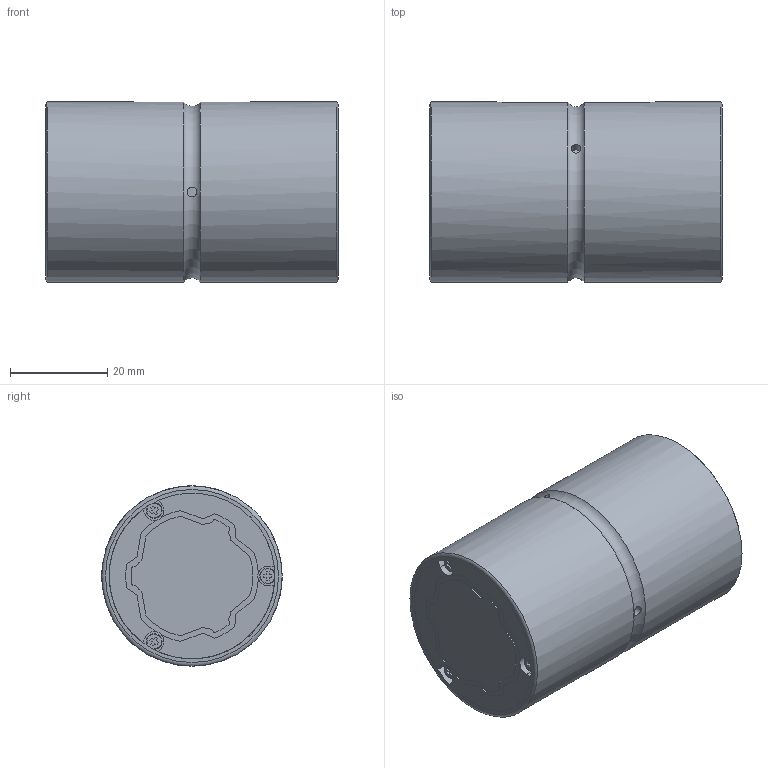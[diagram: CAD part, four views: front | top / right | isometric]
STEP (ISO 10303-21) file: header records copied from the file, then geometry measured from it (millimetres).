
FILE_DESCRIPTION(/* description */ ('STEP AP203'),/* implementation_level */ '2;1');
FILE_NAME(/* name */ 'SLS25160(00)',/* time_stamp */ '2024-05-23T11:46:29+02:00',/* author */ ('License CC BY-ND 4.0'),/* organization */ ('CADENAS'),/* preprocessor_version */ 'ST-DEVELOPER v19.3',/* originating_system */ 'PARTsolutions',/* authorisation */ ' ');
FILE_SCHEMA (('CONFIG_CONTROL_DESIGN'));
Length unit declared in the file: millimetre
Products named in the file (3): SLS25160(00); 25(X60); 25X cylinder
Assembly tree (2 placements, depth 2):
  SLS25160(00)
    25(X60)
    25X cylinder
Bounding box: 60 x 37 x 37 mm (x, y, z)
Volume: 63577.7 mm3; surface area: 19349.3 mm2
Topology: 2 solids, 2 shells, 276 faces, 778 edges, 517 vertices
Faces by surface type: plane 168, cylinder 99, torus 9
Full cylindrical faces by diameter (mm): 2 x3, 34 x2, 37 x2
Entity records: 8994 total; most frequent: CARTESIAN_POINT 1661, DIRECTION 1530, ORIENTED_EDGE 1524, EDGE_CURVE 762, LINE 514, VECTOR 514, VERTEX_POINT 510, AXIS2_PLACEMENT_3D 508
